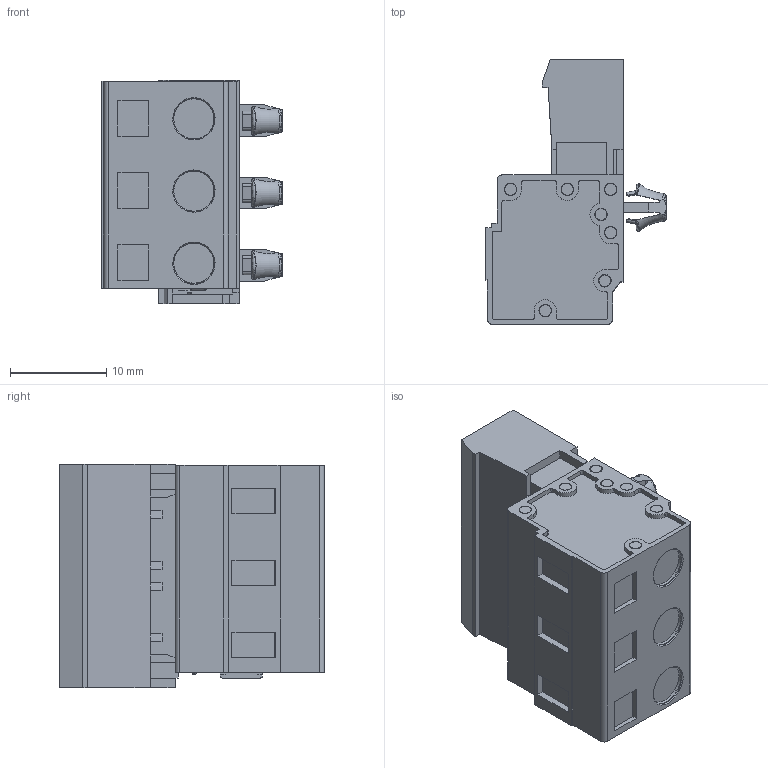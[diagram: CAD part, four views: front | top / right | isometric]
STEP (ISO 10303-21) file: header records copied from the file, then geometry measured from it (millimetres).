
FILE_DESCRIPTION((''),'2;1');
FILE_NAME('3PIN_SW0001','2019-06-06T',('zhenbing.lai'),(''),'CREO PARAMETRIC BY PTC INC, 2016260','CREO PARAMETRIC BY PTC INC, 2016260','');
FILE_SCHEMA(('CONFIG_CONTROL_DESIGN'));
Length unit declared in the file: millimetre
Products named in the file (1): 3PIN_SW0001
Bounding box: 18.8 x 27.5 x 23.2 mm (x, y, z)
Volume: 5540.7 mm3; surface area: 3450.1 mm2
Topology: 1 solids, 1 shells, 576 faces, 1539 edges, 1003 vertices
Faces by surface type: plane 356, cylinder 116, bspline 44, cone 43, torus 12, sphere 5
Entity records: 20630 total; most frequent: CARTESIAN_POINT 6667, ORIENTED_EDGE 3068, DIRECTION 2624, EDGE_CURVE 1534, VERTEX_POINT 1003, VECTOR 980, LINE 980, AXIS2_PLACEMENT_3D 822
